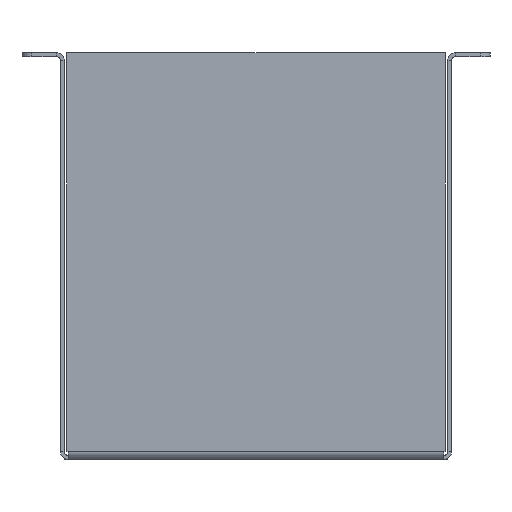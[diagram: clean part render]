
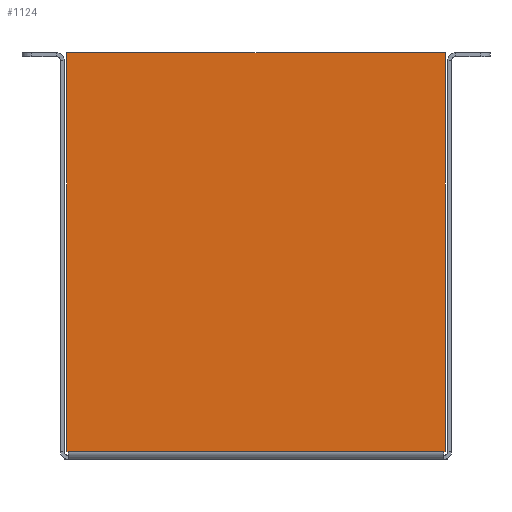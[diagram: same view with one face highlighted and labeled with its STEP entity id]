
A CAD part, front view. The second image highlights one B-rep face of the part: STEP entity #1124.
In plain terms, the highlighted planar face has unit normal (0, -1, 0).
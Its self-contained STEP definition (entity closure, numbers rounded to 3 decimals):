
#54=PLANE('',#1238);
#118=FACE_OUTER_BOUND('',#194,.T.);
#194=EDGE_LOOP('',(#970,#971,#972,#973,#974,#975));
#300=LINE('',#1835,#418);
#308=LINE('',#1855,#426);
#310=LINE('',#1858,#428);
#315=LINE('',#1869,#433);
#317=LINE('',#1873,#435);
#319=LINE('',#1876,#437);
#418=VECTOR('',#1486,10.);
#426=VECTOR('',#1502,10.);
#428=VECTOR('',#1506,10.);
#433=VECTOR('',#1521,10.);
#435=VECTOR('',#1525,10.);
#437=VECTOR('',#1529,10.);
#569=VERTEX_POINT('',#1833);
#570=VERTEX_POINT('',#1834);
#577=VERTEX_POINT('',#1852);
#578=VERTEX_POINT('',#1854);
#579=VERTEX_POINT('',#1868);
#580=VERTEX_POINT('',#1872);
#696=EDGE_CURVE('',#569,#570,#300,.T.);
#706=EDGE_CURVE('',#578,#577,#308,.T.);
#708=EDGE_CURVE('',#570,#578,#310,.T.);
#715=EDGE_CURVE('',#579,#569,#315,.T.);
#717=EDGE_CURVE('',#580,#579,#317,.T.);
#719=EDGE_CURVE('',#577,#580,#319,.T.);
#970=ORIENTED_EDGE('',*,*,#696,.T.);
#971=ORIENTED_EDGE('',*,*,#708,.T.);
#972=ORIENTED_EDGE('',*,*,#706,.T.);
#973=ORIENTED_EDGE('',*,*,#719,.T.);
#974=ORIENTED_EDGE('',*,*,#717,.T.);
#975=ORIENTED_EDGE('',*,*,#715,.T.);
#1124=ADVANCED_FACE('',(#118),#54,.T.);
#1238=AXIS2_PLACEMENT_3D('',#1878,#1532,#1533);
#1486=DIRECTION('',(1.,0.,0.));
#1502=DIRECTION('',(0.,0.,1.));
#1506=DIRECTION('',(1.,0.,0.));
#1521=DIRECTION('',(1.,0.,0.));
#1525=DIRECTION('',(0.,0.,-1.));
#1529=DIRECTION('',(-1.,0.,0.));
#1532=DIRECTION('center_axis',(0.,-1.,0.));
#1533=DIRECTION('ref_axis',(-1.,0.,0.));
#1833=CARTESIAN_POINT('',(2.,-2.,4.));
#1834=CARTESIAN_POINT('',(198.,-2.,4.));
#1835=CARTESIAN_POINT('',(100.,-2.,4.));
#1852=CARTESIAN_POINT('',(198.586,-2.,212.));
#1854=CARTESIAN_POINT('',(198.586,-2.,4.));
#1855=CARTESIAN_POINT('',(198.586,-2.,4.));
#1858=CARTESIAN_POINT('',(198.,-2.,4.));
#1868=CARTESIAN_POINT('',(1.414,-2.,4.));
#1869=CARTESIAN_POINT('',(2.,-2.,4.));
#1872=CARTESIAN_POINT('',(1.414,-2.,212.));
#1873=CARTESIAN_POINT('',(1.414,-2.,4.));
#1876=CARTESIAN_POINT('',(1.414,-2.,212.));
#1878=CARTESIAN_POINT('Origin',(100.,-2.,105.745));
